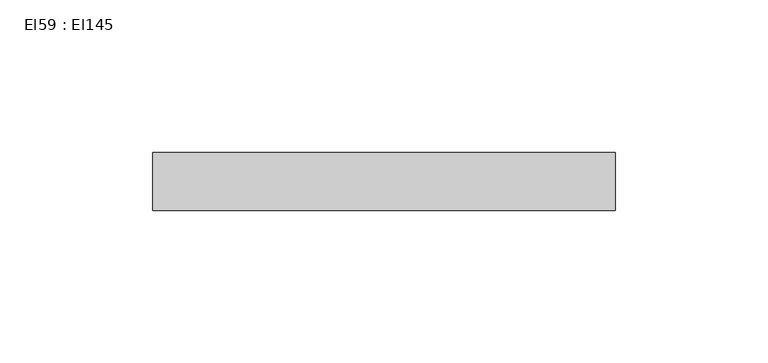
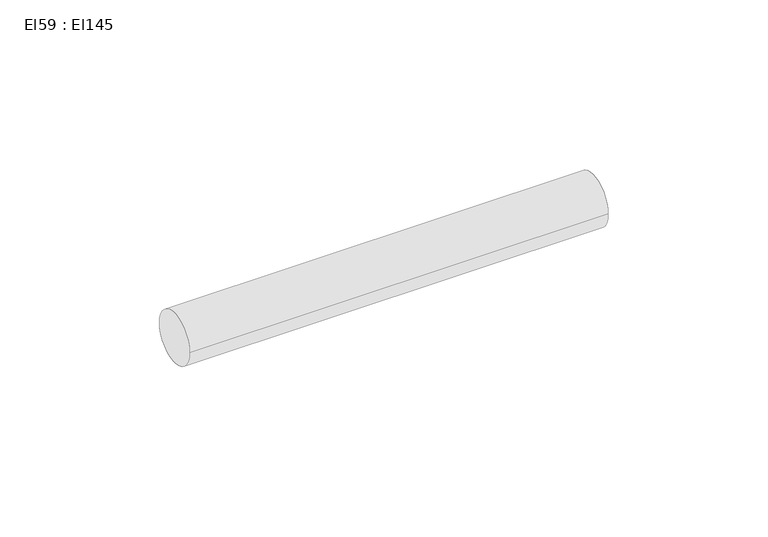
"""IFC4 building model written with IfcOpenShell, lengths in millimetres: cable carrier segment geometry, El59 : El145."""

from ifc_helpers import new_model, si_unit, point, frame, frame_2d, origin, place, context, project, spatial, circle_curve, trimmed, segment, composite_curve, outline, extrude, source, transform, mapped, element, save


def el59_el145_87ae16ea(model_context):
    return source(origin(), model_context, "Body", "SweptSolid", [
        extrude(outline(composite_curve([segment(trimmed(circle_curve(frame_2d((4566.0121745, 2700.0)), 9.5), [point((4556.5121745, 2700.0))], [point((4575.5121745, 2700.0))], False, "CARTESIAN"), True, "CONTINUOUS"), segment(trimmed(circle_curve(frame_2d((4566.0121745, 2700.0)), 9.5), [point((4575.5121745, 2700.0))], [point((4556.5121745, 2700.0))], False, "CARTESIAN"), True, "CONTINUOUS")], self_intersect=False)), frame((23863.6251511, 0.0, 0.0), z_axis=(1.0, 0.0, 0.0), x_axis=(0.0, 1.0, 0.0)), (0.0, 0.0, 1.0), 151.499),
    ])


if __name__ == "__main__":
    model = new_model("IFC4")
    model_context = context("Model", 3, world=origin())
    ifc_project = project(units=[si_unit("LENGTHUNIT", "METRE", prefix="MILLI")], contexts=[model_context])
    site = spatial("IfcSite", under=ifc_project)
    building = spatial("IfcBuilding", under=site)
    placement = place(None, origin())
    el59_el145_shape = el59_el145_87ae16ea(model_context)
    element("IfcCableCarrierSegment", 1, ObjectType="El59 : El145", at=placement, inside=building, context=model_context, shape_type="MappedRepresentation", body=[
        mapped(el59_el145_shape, transform((0.0, 0.0, 0.0), x_axis=(1.0, 0.0, 0.0), y_axis=(0.0, 1.0, 0.0), z_axis=(0.0, 0.0, 1.0))),
    ])
    save(model, "model.ifc")
